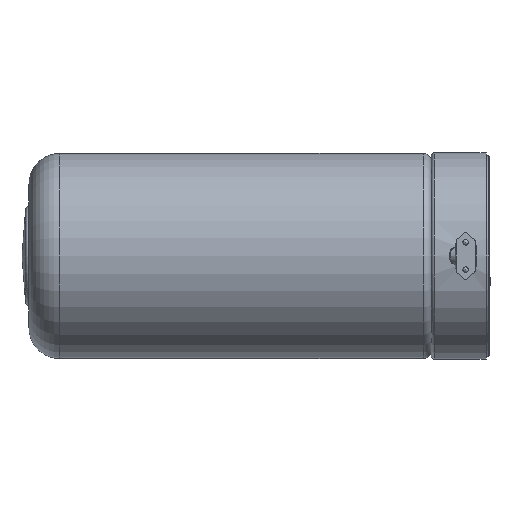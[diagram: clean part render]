
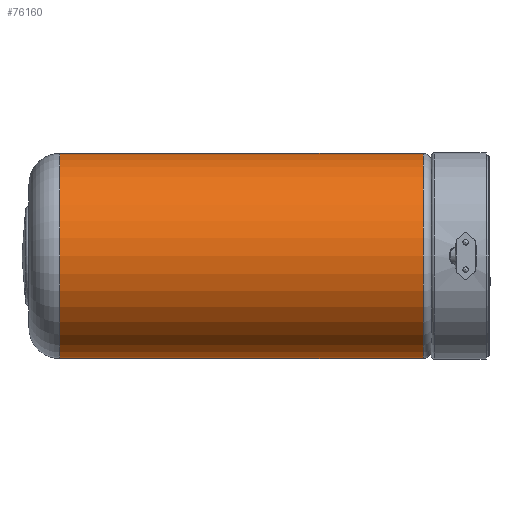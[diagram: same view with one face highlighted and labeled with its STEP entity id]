
A CAD part, left-side view. The second image highlights one B-rep face of the part: STEP entity #76160.
In plain terms, the highlighted cylindrical face has radius 75 mm (diameter 150 mm), a full revolution.
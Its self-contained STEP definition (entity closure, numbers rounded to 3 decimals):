
#7801=FACE_OUTER_BOUND('',#12345,.T.);
#12345=EDGE_LOOP('',(#54462,#54463,#54464,#54465,#54466,#54467));
#16900=CIRCLE('',#82222,75.);
#16901=CIRCLE('',#82223,75.);
#16916=CIRCLE('',#82246,75.);
#16917=CIRCLE('',#82247,75.);
#19947=LINE('',#113481,#26600);
#26600=VECTOR('',#91589,75.);
#33382=VERTEX_POINT('',#113439);
#33383=VERTEX_POINT('',#113440);
#33395=VERTEX_POINT('',#113478);
#33396=VERTEX_POINT('',#113479);
#41298=EDGE_CURVE('',#33382,#33383,#16900,.T.);
#41299=EDGE_CURVE('',#33383,#33382,#16901,.T.);
#41316=EDGE_CURVE('',#33395,#33396,#16916,.T.);
#41317=EDGE_CURVE('',#33395,#33382,#19947,.T.);
#41318=EDGE_CURVE('',#33396,#33395,#16917,.T.);
#54462=ORIENTED_EDGE('',*,*,#41316,.F.);
#54463=ORIENTED_EDGE('',*,*,#41317,.T.);
#54464=ORIENTED_EDGE('',*,*,#41298,.T.);
#54465=ORIENTED_EDGE('',*,*,#41299,.T.);
#54466=ORIENTED_EDGE('',*,*,#41317,.F.);
#54467=ORIENTED_EDGE('',*,*,#41318,.F.);
#74544=CYLINDRICAL_SURFACE('',#82245,75.);
#76160=ADVANCED_FACE('',(#7801),#74544,.T.);
#82222=AXIS2_PLACEMENT_3D('',#113441,#91537,#91538);
#82223=AXIS2_PLACEMENT_3D('',#113442,#91539,#91540);
#82245=AXIS2_PLACEMENT_3D('',#113477,#91585,#91586);
#82246=AXIS2_PLACEMENT_3D('',#113480,#91587,#91588);
#82247=AXIS2_PLACEMENT_3D('',#113482,#91590,#91591);
#91537=DIRECTION('center_axis',(1.,0.,0.));
#91538=DIRECTION('ref_axis',(0.,0.,-1.));
#91539=DIRECTION('center_axis',(1.,0.,0.));
#91540=DIRECTION('ref_axis',(0.,0.,-1.));
#91585=DIRECTION('center_axis',(1.,0.,0.));
#91586=DIRECTION('ref_axis',(0.,1.,0.));
#91587=DIRECTION('center_axis',(1.,0.,0.));
#91588=DIRECTION('ref_axis',(0.,0.,-1.));
#91589=DIRECTION('',(-1.,0.,0.));
#91590=DIRECTION('center_axis',(1.,0.,0.));
#91591=DIRECTION('ref_axis',(0.,0.,-1.));
#113439=CARTESIAN_POINT('',(22.5,-75.,0.));
#113440=CARTESIAN_POINT('',(22.5,0.,75.));
#113441=CARTESIAN_POINT('Origin',(22.5,0.,0.));
#113442=CARTESIAN_POINT('Origin',(22.5,0.,0.));
#113477=CARTESIAN_POINT('Origin',(155.25,0.,0.));
#113478=CARTESIAN_POINT('',(288.,-75.,0.));
#113479=CARTESIAN_POINT('',(288.,0.,75.));
#113480=CARTESIAN_POINT('Origin',(288.,0.,0.));
#113481=CARTESIAN_POINT('',(155.25,-75.,0.));
#113482=CARTESIAN_POINT('Origin',(288.,0.,0.));
